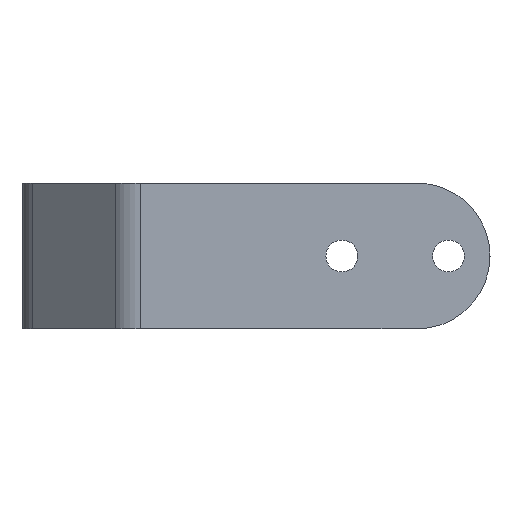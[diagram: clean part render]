
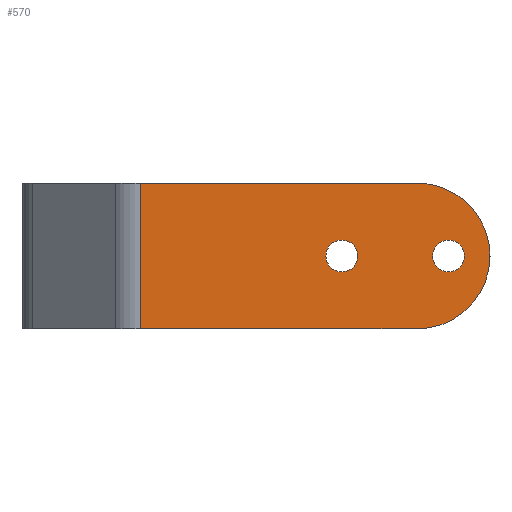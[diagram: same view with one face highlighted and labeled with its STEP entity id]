
A CAD part, left-side view. The second image highlights one B-rep face of the part: STEP entity #570.
In plain terms, the highlighted planar face has unit normal (-1, 0, 0).
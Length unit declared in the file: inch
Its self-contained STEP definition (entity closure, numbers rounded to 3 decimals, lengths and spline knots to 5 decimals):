
#11 = DIRECTION ( 'NONE',  ( 0., 0., 1. ) ) ;
#41 = DIRECTION ( 'NONE',  ( 0., 0., 1. ) ) ;
#73 = DIRECTION ( 'NONE',  ( 0., 0., -1. ) ) ;
#102 = DIRECTION ( 'NONE',  ( 0., 1., 0. ) ) ;
#111 = LINE ( 'NONE', #1266, #365 ) ;
#112 = FACE_BOUND ( 'NONE', #729, .T. ) ;
#118 = EDGE_LOOP ( 'NONE', ( #263, #1248, #445, #351 ) ) ;
#181 = VERTEX_POINT ( 'NONE', #479 ) ;
#206 = CIRCLE ( 'NONE', #268, 0.175 ) ;
#210 = FACE_BOUND ( 'NONE', #1516, .T. ) ;
#242 = CARTESIAN_POINT ( 'NONE',  ( -8.035, 0., -1.6 ) ) ;
#259 = CARTESIAN_POINT ( 'NONE',  ( -8.035, 0.455, -0.8 ) ) ;
#263 = ORIENTED_EDGE ( 'NONE', *, *, #597, .F. ) ;
#268 = AXIS2_PLACEMENT_3D ( 'NONE', #1474, #328, #711 ) ;
#273 = LINE ( 'NONE', #1552, #834 ) ;
#292 = VERTEX_POINT ( 'NONE', #663 ) ;
#323 = CARTESIAN_POINT ( 'NONE',  ( -8.035, 0., -1.6 ) ) ;
#328 = DIRECTION ( 'NONE',  ( -1., 0., 0. ) ) ;
#331 = EDGE_CURVE ( 'NONE', #1277, #292, #273, .T. ) ;
#342 = PLANE ( 'NONE',  #897 ) ;
#351 = ORIENTED_EDGE ( 'NONE', *, *, #1400, .F. ) ;
#365 = VECTOR ( 'NONE', #492, 39.37008 ) ;
#402 = CIRCLE ( 'NONE', #1620, 0.80001 ) ;
#438 = CARTESIAN_POINT ( 'NONE',  ( -8.035, 1.625, -0.8 ) ) ;
#445 = ORIENTED_EDGE ( 'NONE', *, *, #331, .T. ) ;
#447 = CARTESIAN_POINT ( 'NONE',  ( -8.035, 0.80001, -0.79999 ) ) ;
#454 = CARTESIAN_POINT ( 'NONE',  ( -8.035, 0.79535, 0. ) ) ;
#479 = CARTESIAN_POINT ( 'NONE',  ( -8.035, 1.625, -0.625 ) ) ;
#492 = DIRECTION ( 'NONE',  ( 0., 0., 1. ) ) ;
#501 = CIRCLE ( 'NONE', #1057, 0.175 ) ;
#505 = DIRECTION ( 'NONE',  ( 0., 1., 0. ) ) ;
#511 = VERTEX_POINT ( 'NONE', #695 ) ;
#556 = EDGE_CURVE ( 'NONE', #181, #1434, #206, .T. ) ;
#570 = ADVANCED_FACE ( 'NONE', ( #210, #112, #1597 ), #342, .F. ) ;
#597 = EDGE_CURVE ( 'NONE', #511, #1510, #1483, .T. ) ;
#602 = ORIENTED_EDGE ( 'NONE', *, *, #848, .F. ) ;
#663 = CARTESIAN_POINT ( 'NONE',  ( -8.035, 3.83579, 0. ) ) ;
#673 = DIRECTION ( 'NONE',  ( -1., 0., 0. ) ) ;
#695 = CARTESIAN_POINT ( 'NONE',  ( -8.035, 0.80001, -1.6 ) ) ;
#701 = EDGE_CURVE ( 'NONE', #1601, #844, #501, .T. ) ;
#706 = CIRCLE ( 'NONE', #1114, 0.175 ) ;
#711 = DIRECTION ( 'NONE',  ( 0., 0., 1. ) ) ;
#721 = ORIENTED_EDGE ( 'NONE', *, *, #1053, .F. ) ;
#729 = EDGE_LOOP ( 'NONE', ( #721, #1606 ) ) ;
#745 = DIRECTION ( 'NONE',  ( -1., 0., 0. ) ) ;
#811 = CIRCLE ( 'NONE', #1010, 0.175 ) ;
#834 = VECTOR ( 'NONE', #505, 39.37008 ) ;
#844 = VERTEX_POINT ( 'NONE', #1577 ) ;
#848 = EDGE_CURVE ( 'NONE', #1434, #181, #811, .T. ) ;
#855 = DIRECTION ( 'NONE',  ( 1., 0., 0. ) ) ;
#897 = AXIS2_PLACEMENT_3D ( 'NONE', #323, #855, #73 ) ;
#1010 = AXIS2_PLACEMENT_3D ( 'NONE', #438, #673, #41 ) ;
#1011 = CARTESIAN_POINT ( 'NONE',  ( -8.035, 0.455, -0.8 ) ) ;
#1027 = DIRECTION ( 'NONE',  ( 0., 0., 1. ) ) ;
#1053 = EDGE_CURVE ( 'NONE', #844, #1601, #706, .T. ) ;
#1057 = AXIS2_PLACEMENT_3D ( 'NONE', #259, #1542, #1027 ) ;
#1114 = AXIS2_PLACEMENT_3D ( 'NONE', #1011, #745, #11 ) ;
#1196 = CARTESIAN_POINT ( 'NONE',  ( -8.035, 3.83579, -1.6 ) ) ;
#1207 = ORIENTED_EDGE ( 'NONE', *, *, #556, .F. ) ;
#1248 = ORIENTED_EDGE ( 'NONE', *, *, #1249, .F. ) ;
#1249 = EDGE_CURVE ( 'NONE', #1277, #511, #402, .T. ) ;
#1266 = CARTESIAN_POINT ( 'NONE',  ( -8.035, 3.83579, -1.6 ) ) ;
#1277 = VERTEX_POINT ( 'NONE', #454 ) ;
#1339 = CARTESIAN_POINT ( 'NONE',  ( -8.035, 0.455, -0.975 ) ) ;
#1400 = EDGE_CURVE ( 'NONE', #1510, #292, #111, .T. ) ;
#1434 = VERTEX_POINT ( 'NONE', #1554 ) ;
#1474 = CARTESIAN_POINT ( 'NONE',  ( -8.035, 1.625, -0.8 ) ) ;
#1483 = LINE ( 'NONE', #242, #1613 ) ;
#1510 = VERTEX_POINT ( 'NONE', #1196 ) ;
#1516 = EDGE_LOOP ( 'NONE', ( #1207, #602 ) ) ;
#1542 = DIRECTION ( 'NONE',  ( -1., 0., 0. ) ) ;
#1552 = CARTESIAN_POINT ( 'NONE',  ( -8.035, 0., 0. ) ) ;
#1554 = CARTESIAN_POINT ( 'NONE',  ( -8.035, 1.625, -0.975 ) ) ;
#1577 = CARTESIAN_POINT ( 'NONE',  ( -8.035, 0.455, -0.625 ) ) ;
#1588 = DIRECTION ( 'NONE',  ( 1., 0., 0. ) ) ;
#1597 = FACE_OUTER_BOUND ( 'NONE', #118, .T. ) ;
#1601 = VERTEX_POINT ( 'NONE', #1339 ) ;
#1604 = DIRECTION ( 'NONE',  ( 0., 0., 1. ) ) ;
#1606 = ORIENTED_EDGE ( 'NONE', *, *, #701, .F. ) ;
#1613 = VECTOR ( 'NONE', #102, 39.37008 ) ;
#1620 = AXIS2_PLACEMENT_3D ( 'NONE', #447, #1588, #1604 ) ;
